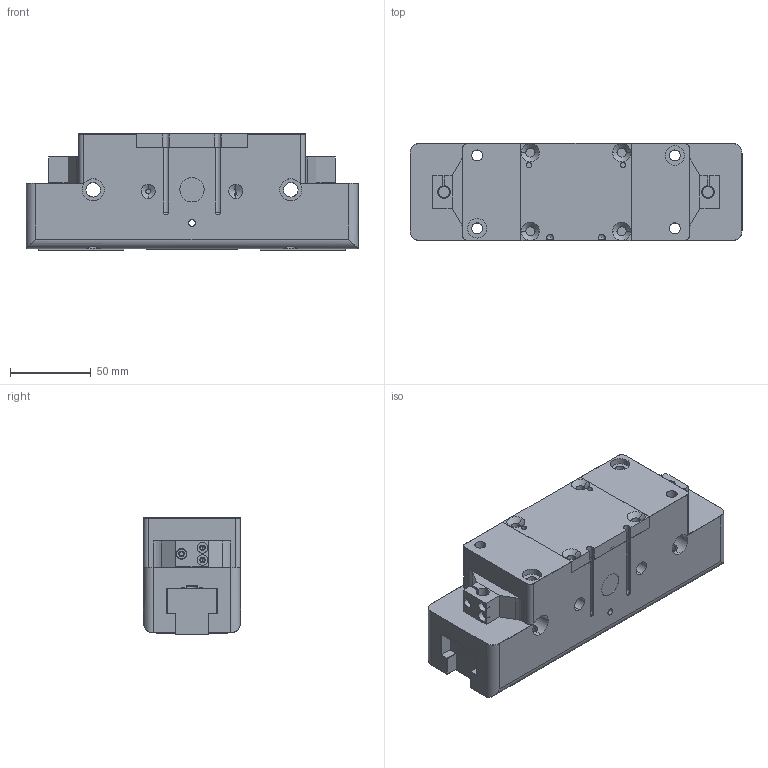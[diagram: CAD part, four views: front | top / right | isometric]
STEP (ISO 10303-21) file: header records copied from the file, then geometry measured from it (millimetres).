
FILE_DESCRIPTION (( 'STEP AP214' ), '1' );
FILE_NAME ('FPT 110A-1.STEP', '2023-03-06T06:23:25', ( '' ), ( '' ), 'SwSTEP 2.0', 'SolidWorks 2020', '' );
FILE_SCHEMA (( 'AUTOMOTIVE_DESIGN' ));
Length unit declared in the file: millimetre
Products named in the file (6): FPT110A-1-01-002; FPT110A-1-01-008; FPT110A-1-01-001; FPT110A-1-01-004; FPT-000-1-01-003; FPT 110A-1
Assembly tree (7 placements, depth 2):
  FPT 110A-1
    FPT110A-1-01-001
    FPT110A-1-01-004
    FPT110A-1-01-002
    FPT110A-1-01-008  x2
    FPT-000-1-01-003  x2
Bounding box: 205 x 60 x 71.75 mm (x, y, z)
Volume: 681274.2 mm3; surface area: 128630.5 mm2
Topology: 7 solids, 7 shells, 504 faces, 1313 edges, 824 vertices
Faces by surface type: plane 221, cylinder 199, cone 78, bspline 4, sphere 2
Entity records: 15820 total; most frequent: CARTESIAN_POINT 4177, DIRECTION 2274, ORIENTED_EDGE 2212, EDGE_CURVE 1106, AXIS2_PLACEMENT_3D 805, VERTEX_POINT 702, VECTOR 664, LINE 664
